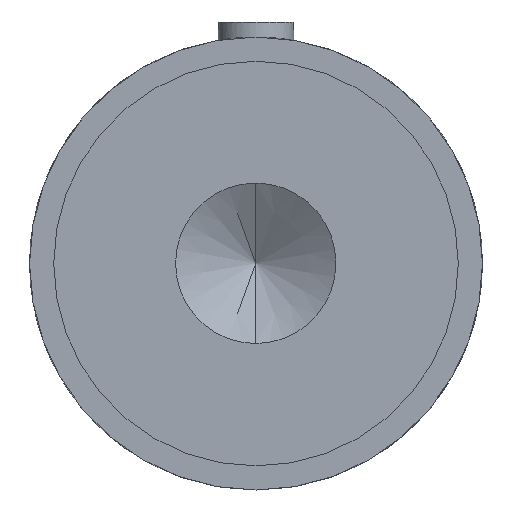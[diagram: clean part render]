
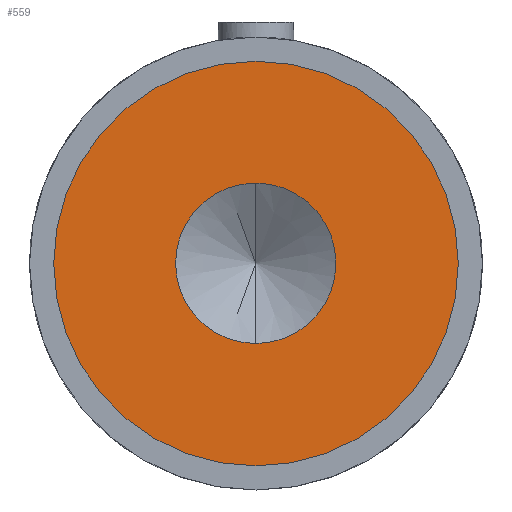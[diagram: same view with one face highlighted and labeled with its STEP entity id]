
A CAD part, front view. The second image highlights one B-rep face of the part: STEP entity #559.
In plain terms, the highlighted planar face has unit normal (0, -1, 0).
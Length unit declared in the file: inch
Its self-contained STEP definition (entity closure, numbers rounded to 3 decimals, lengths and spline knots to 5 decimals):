
#64 = VERTEX_POINT ( 'NONE', #66 ) ;
#66 = CARTESIAN_POINT ( 'NONE',  ( -0.00087, 0., 0.26647 ) ) ;
#79 = CARTESIAN_POINT ( 'NONE',  ( -0.00087, 0., -0.26473 ) ) ;
#86 = VERTEX_POINT ( 'NONE', #79 ) ;
#92 = VERTEX_POINT ( 'NONE', #169 ) ;
#109 = VERTEX_POINT ( 'NONE', #160 ) ;
#160 = CARTESIAN_POINT ( 'NONE',  ( 0., 0., -0.67 ) ) ;
#169 = CARTESIAN_POINT ( 'NONE',  ( 0., 0., 0.67 ) ) ;
#228 = PLANE ( 'NONE',  #912 ) ;
#236 = CARTESIAN_POINT ( 'NONE',  ( 0., 0., 0. ) ) ;
#256 = DIRECTION ( 'NONE',  ( 0., 0., 1. ) ) ;
#264 = DIRECTION ( 'NONE',  ( 0., 1., 0. ) ) ;
#479 = DIRECTION ( 'NONE',  ( 0., 0., -1. ) ) ;
#487 = DIRECTION ( 'NONE',  ( 0., -1., 0. ) ) ;
#489 = CARTESIAN_POINT ( 'NONE',  ( -0.00087, 0., 0.00087 ) ) ;
#498 = DIRECTION ( 'NONE',  ( 0., 0., -1. ) ) ;
#503 = DIRECTION ( 'NONE',  ( 0., 0., 1. ) ) ;
#504 = DIRECTION ( 'NONE',  ( 0., 1., 0. ) ) ;
#507 = DIRECTION ( 'NONE',  ( 0., 0., 1. ) ) ;
#508 = CARTESIAN_POINT ( 'NONE',  ( 0., 0., 0. ) ) ;
#514 = CARTESIAN_POINT ( 'NONE',  ( -0.00087, 0., 0.00087 ) ) ;
#516 = DIRECTION ( 'NONE',  ( 0., -1., 0. ) ) ;
#517 = CARTESIAN_POINT ( 'NONE',  ( 0., 0., 0. ) ) ;
#520 = DIRECTION ( 'NONE',  ( 0., 1., 0. ) ) ;
#559 = ADVANCED_FACE ( 'NONE', ( #1266, #1283 ), #228, .F. ) ;
#834 = EDGE_CURVE ( 'NONE', #64, #86, #1391, .T. ) ;
#852 = EDGE_CURVE ( 'NONE', #92, #109, #1368, .T. ) ;
#854 = EDGE_CURVE ( 'NONE', #86, #64, #1372, .T. ) ;
#858 = EDGE_CURVE ( 'NONE', #109, #92, #1376, .T. ) ;
#893 = AXIS2_PLACEMENT_3D ( 'NONE', #489, #487, #479 ) ;
#912 = AXIS2_PLACEMENT_3D ( 'NONE', #236, #264, #256 ) ;
#927 = AXIS2_PLACEMENT_3D ( 'NONE', #514, #516, #498 ) ;
#956 = AXIS2_PLACEMENT_3D ( 'NONE', #517, #520, #507 ) ;
#977 = AXIS2_PLACEMENT_3D ( 'NONE', #508, #504, #503 ) ;
#1052 = EDGE_LOOP ( 'NONE', ( #1056, #1085 ) ) ;
#1053 = EDGE_LOOP ( 'NONE', ( #1118, #1084 ) ) ;
#1056 = ORIENTED_EDGE ( 'NONE', *, *, #854, .F. ) ;
#1084 = ORIENTED_EDGE ( 'NONE', *, *, #852, .F. ) ;
#1085 = ORIENTED_EDGE ( 'NONE', *, *, #834, .F. ) ;
#1118 = ORIENTED_EDGE ( 'NONE', *, *, #858, .F. ) ;
#1266 = FACE_BOUND ( 'NONE', #1052, .T. ) ;
#1283 = FACE_OUTER_BOUND ( 'NONE', #1053, .T. ) ;
#1368 = CIRCLE ( 'NONE', #977, 0.67 ) ;
#1372 = CIRCLE ( 'NONE', #927, 0.2656 ) ;
#1376 = CIRCLE ( 'NONE', #956, 0.67 ) ;
#1391 = CIRCLE ( 'NONE', #893, 0.2656 ) ;
